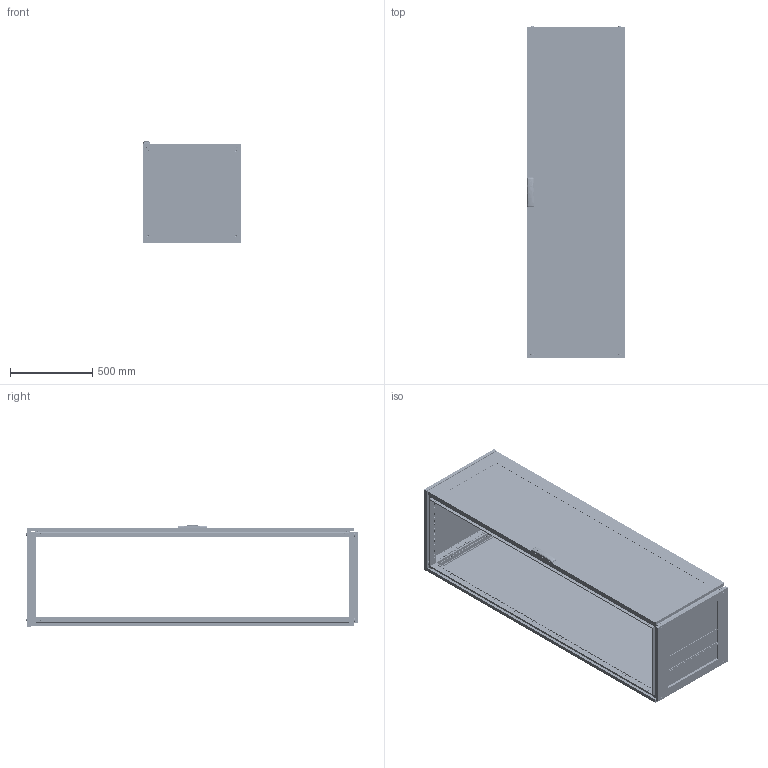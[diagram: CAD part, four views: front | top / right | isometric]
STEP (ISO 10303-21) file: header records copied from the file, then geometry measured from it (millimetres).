
FILE_DESCRIPTION (( 'STEP AP203' ), '1' );
FILE_NAME ('R5CQEN2066AX.STEP', '2025-05-07T12:07:01', ( '' ), ( '' ), 'SwSTEP 2.0', 'SolidWorks 2022', '' );
FILE_SCHEMA (( 'CONFIG_CONTROL_DESIGN' ));
Length unit declared in the file: millimetre
Products named in the file (66): RB.2702.00.00.0 simple; RB.0528.04.01.0 simple; M6 MGR-MKO-0625 simple_Thread; RB.2696.00.00.0 simple; M6 DIN 985 cl.6,0 Zinc_straight; R5NCPTE - Assem simple_R5NCPTE2060; RB.2456.00.00.0 simple_-02; RB.2755.00.00.0 СБ simple_-14; TPA.08.0139.00.03.0; TPA.08.0083.00.00.0 simple; PF 7,5x15 CPE simple_2000x0600; R5NKMN - Assem simple_R5NKMN20 (600х600); RB.0562.01.00.0 СБ simple_-15; RB.2680.00.02.0 simple; RB.2969.00.00.0 СБ simple; RB.1957.00.00.0 simple_-06; M6x15 Erickson cl.4,8 Zinc; RB.1957.00.00.0 simple_-05; TPA.08.0139.00.01.0 simple; 7 DIN 6799 Zinc simple; RB.0528.00.01.0 simple_-05; RB.1633.00.02.0 simple_-02; ATOS Traction guide ILY03.35; R5NKTB - Assem simple_H=2000 R5NKTB66; RB.2680.00.01.0 simple; R5NCRE-Assem simple_R5NCRE2060; RB.2968.00.00.0 simple; 7 DIN 6799 Zinc; RB.1867.01.01.0 simple_-09; RB.2457.00.00.0 СБ simple_-14; RB.2969.00.01.0 simple; TPA.08.0084.00.00.0 simple; PF 5x10 KTB simple_600x600; M8x12 AC00C476 cl.8,8 Zinc_stright; RB.0528.04.00.0 СБ simple; M6x10 DIN 7500 M Torx cl.5.8 Zinc_straight; RB.2686.00.00.0 simple; RB.2357.00.00.0 simple_-03; M6x10 DIN 912 HX cl.8,8 Zinc_straight; RB.0054.01.01.0 simple_-23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
Assembly tree (173 placements, depth 5):
  R5CQEN2066AX
    R5NCPTE - Assem simple_R5NCPTE2060
      RB.0562.00.00.0 СБ simple_-15
        RB.0562.01.00.0 СБ simple_-15
          RB.0562.01.01.0 simple_-15
          М6х12 A5100231_straight  x7
          RB.2702.00.00.0 simple  x4
          PF 7,5x15 CPE simple_2000x0600
          Glass CPTE_2000x0600
          Glue CPTE simple_2000x0600
        Square cap 20x20 simple  x2
        M6x15 Erickson cl.4,8 Zinc  x2
        RB.0528.00.01.0 simple_-05  x2
        ATOS Traction guide ILY03.35  x4
        RB.2357.00.00.0 simple_-03
        RB.2680.00.00.0 СБ simple
          TPA.08.0139.00.01.0 simple
          RB.2680.00.01.0 simple
          RB.2680.00.02.0 simple  x2
        TPA.08.0139.00.03.0  x2
        M6 DIN 985 cl.6,0 Zinc_straight  x4
        4,0x16 F Torx Zinc (ART 88200)_thread  x2
        RB.0528.04.00.0 СБ simple  x2
          RB.0528.04.01.0 simple
          Pressing stud FH-M6-12_M6x12mm
      M6x10 DIN 912 HX cl.8,8 Zinc_straight  x8
      4.8x13 DIN 7981 PH Zinc_straight
      7 DIN 6799 Zinc simple  x4
      RB.2968.00.00.0 simple  x4
      RB.2969.00.00.0 СБ simple  x4
        RB.2969.00.01.0 simple
        Pin 4x16 DIN 7 AISI 303 (A1) simple
        M6 MGR-MKO-0625 simple_Thread
      AC00C446-R
      RB.2696.00.00.0 simple  x4
      7 DIN 6799 Zinc  x4
    R5NCRE-Assem simple_R5NCRE2060
      RB.2052.00.00.0 СБ simple_-23
        RB.2052.01.00.0 СБ simple_-23
          RB.0054.01.01.0 simple_-23
          М6х12 A5100231_straight  x4
        PF 7x14 CRE simple_2000x0600
      RB.2172.00.00.1 simple  x8
      M6x10 DIN 7500 E HX cl.5.8 Zinc_straight  x8
      M6x10 DIN 7500 M Torx cl.5.8 Zinc_straight  x8
    R5NKMN - Assem simple_R5NKMN20 (600х600)
      RB.2528.00.00.0 simple_-05  x4
    R5NKTB - Assem simple_H=2000 R5NKTB66
      RB.2499.00.00.0 СБ simple_-14
        RB.2499.01.00.0 СБ simple_-13
          RB.1633.00.01.0 simple_-02  x2
          RB.1633.00.02.0 simple_-02  x2
          PF 5x10 KTB simple_600x600
        RB.2457.00.00.0 СБ simple_-14
          RB.2455.00.00.0 simple_-02  x2
          RB.2456.00.00.0 simple_-02  x2
          TPA.08.0084.00.00.0 simple  x2
          TPA.08.0083.00.00.0 simple  x2
          M8x12 AC00C476 cl.8,8 Zinc_stright  x4
        RB.1957.00.00.0 simple_-05  x2
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Bounding box: 600 x 2013.3 x 614.79 mm (x, y, z)
Volume: 14840324.3 mm3; surface area: 13045867.1 mm2
Topology: 176 solids, 192 shells, 22221 faces, 62959 edges, 41475 vertices
Faces by surface type: plane 12451, cylinder 8229, cone 704, bspline 435, torus 368, sphere 34
Entity records: 223268 total; most frequent: CARTESIAN_POINT 55193, ORIENTED_EDGE 33310, DIRECTION 31745, EDGE_CURVE 16681, VERTEX_POINT 11046, AXIS2_PLACEMENT_3D 10637, LINE 10471, VECTOR 10471
